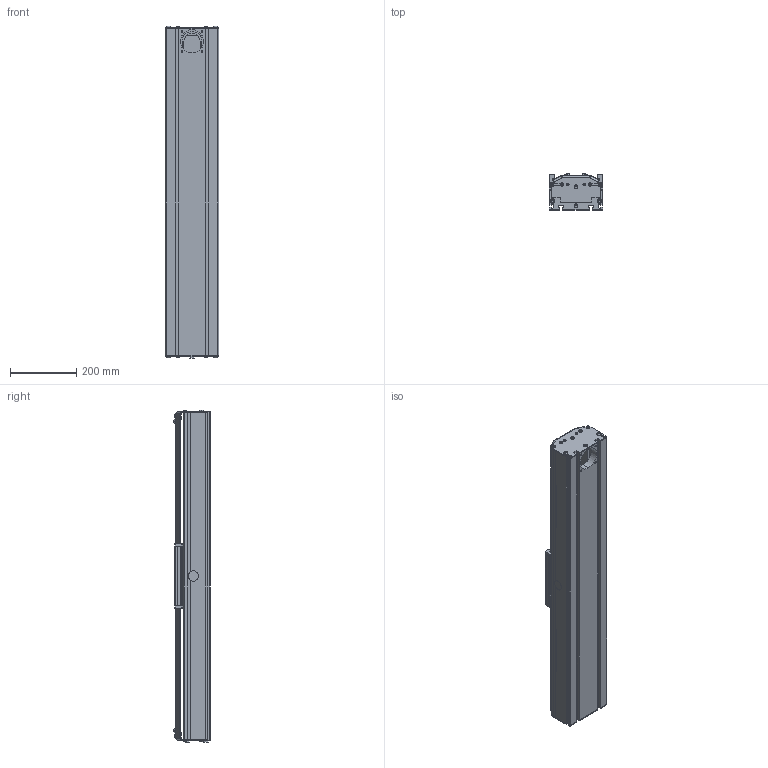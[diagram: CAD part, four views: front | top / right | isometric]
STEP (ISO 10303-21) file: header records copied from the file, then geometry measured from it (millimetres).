
FILE_DESCRIPTION (( 'STEP AP214' ), '1' );
FILE_NAME ('DLZPVI 160.STEP', '2022-07-21T12:46:17', ( '' ), ( '' ), 'SwSTEP 2.0', 'SolidWorks 2020', '' );
FILE_SCHEMA (( 'AUTOMOTIVE_DESIGN' ));
Length unit declared in the file: millimetre
Products named in the file (5): end plate^DLZPVI 160_pos. 2; profile^DLZPVI 160_standard; carriage^DLZPVI 160_carriage 0; end plate^DLZPVI 160_pos. 1; DLZPVI 160
Assembly tree (4 placements, depth 2):
  DLZPVI 160
    profile^DLZPVI 160_standard
    carriage^DLZPVI 160_carriage 0
    end plate^DLZPVI 160_pos. 1
    end plate^DLZPVI 160_pos. 2
Bounding box: 160 x 108.5 x 999.5 mm (x, y, z)
Volume: 6249835.1 mm3; surface area: 1493420.5 mm2
Topology: 14 solids, 14 shells, 764 faces, 2000 edges, 1288 vertices
Faces by surface type: plane 488, cylinder 196, sphere 36, bspline 24, cone 20
Entity records: 30042 total; most frequent: CARTESIAN_POINT 7389, ORIENTED_EDGE 3960, DIRECTION 3778, EDGE_CURVE 1980, VECTOR 1420, LINE 1420, VERTEX_POINT 1288, AXIS2_PLACEMENT_3D 1179
